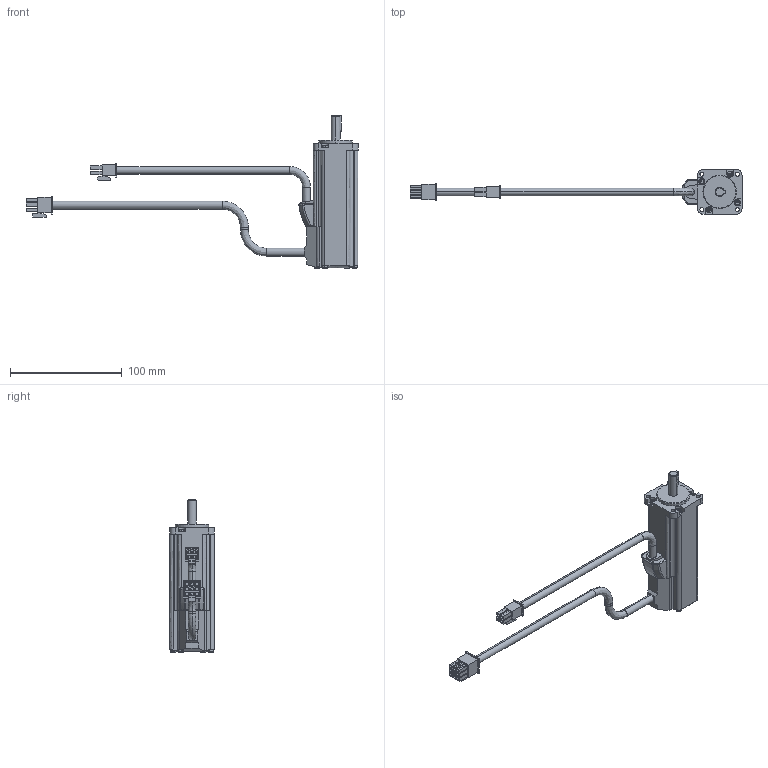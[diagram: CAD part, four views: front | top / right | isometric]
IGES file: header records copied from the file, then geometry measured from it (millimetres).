
Start section:  PTC IGES file: 10001022_rsmz-01bq-bh_no_brake.igs
Global section: file name: 10001022_rsmz-01bq-bh_no_brake.igs; native system: Pro/ENGINEER by Parametric Technology Corporation; preprocessor: 2004440; author: Administrator; organization: Unknown; date: 070829.201631; units: millimetre
Bounding box: 297.7 x 40 x 137.1 mm (x, y, z)
Volume: 187131.1 mm3; surface area: 37142.2 mm2
Topology: 1 solids, 1 shells, 466 faces, 1177 edges, 762 vertices
Faces by surface type: bspline 336, revolution 130
